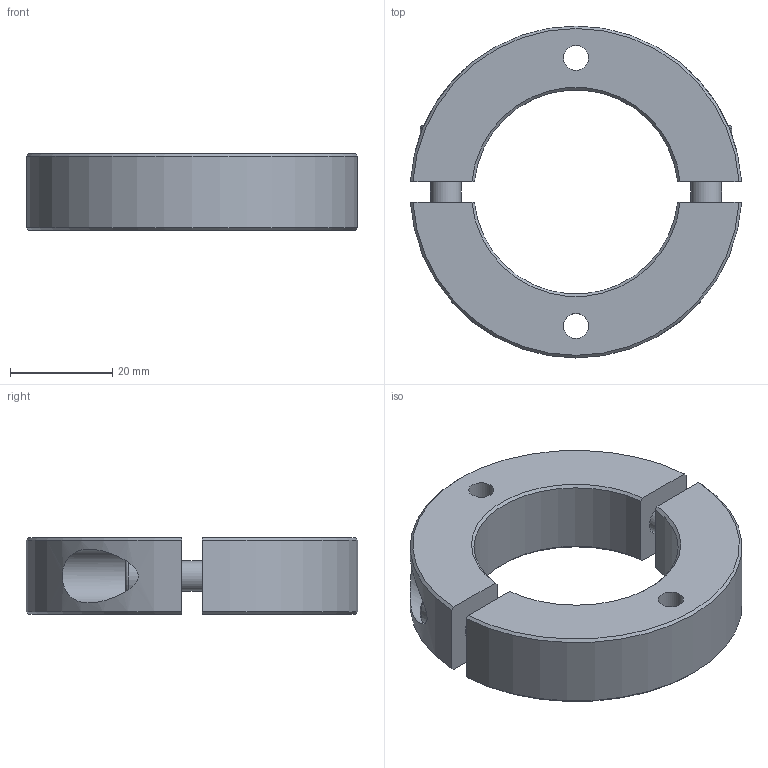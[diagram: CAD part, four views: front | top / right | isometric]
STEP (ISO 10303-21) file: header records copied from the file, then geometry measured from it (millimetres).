
FILE_DESCRIPTION( ( 'STEP AP203' ), '1' );
FILE_NAME( 'C:/Temp/Ganter_Step_05_03_2020/data/3_2/gn7072_2/Split Stainless Steel-Set collar GN 7072.2-65-B40-NI-C.stp', '2020-03-13T05:41:10', ( 'License CC BY-ND 4.0' ), ( 'CADENAS' ), ' ', 'PARTsolutions', ' ' );
FILE_SCHEMA( ( 'CONFIG_CONTROL_DESIGN' ) );
Length unit declared in the file: millimetre
Products named in the file (1): _Split Stainless Steel-Set collar GN 7072.2-65-B40-NI-C
Bounding box: 64.88 x 65 x 15 mm (x, y, z)
Volume: 27534.8 mm3; surface area: 11189.3 mm2
Topology: 1 solids, 1 shells, 52 faces, 123 edges, 83 vertices
Faces by surface type: plane 28, cylinder 14, cone 8, torus 2
Full cylindrical faces by diameter (mm): 4.917 x2, 6 x2, 6.4 x2, 10 x2, 10.5 x2
Entity records: 1640 total; most frequent: CARTESIAN_POINT 455, DIRECTION 230, ORIENTED_EDGE 212, EDGE_CURVE 106, AXIS2_PLACEMENT_3D 89, EDGE_LOOP 80, VERTEX_POINT 78, FACE_OUTER_BOUND 64
